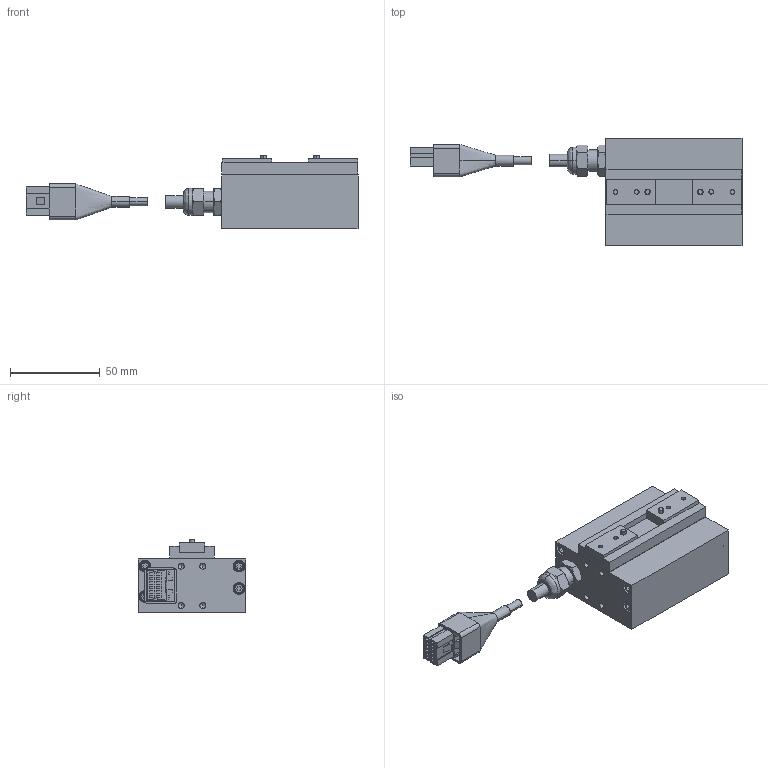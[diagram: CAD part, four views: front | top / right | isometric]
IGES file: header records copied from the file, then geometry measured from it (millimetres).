
Start section: SolidWorks IGES file using analytic representation for surfaces
Global section: file name: G:\SW2007図面\TAIYO\電動機器３Ｄ\電動グリッパ　２爪\ESG1-FT-2020.IGS; native system: SolidWorks 2007; preprocessor: SolidWorks 2007; author: 風音庵,,1; organization: 1; date: 090212.171228; units: millimetre
Bounding box: 185.39 x 60 x 41 mm (x, y, z)
Surface area: 33033.7 mm2 (no closed solid volume)
Topology: 0 solids, 0 shells, 441 faces, 4835 edges, 4811 vertices
Faces by surface type: bspline 265, revolution 176
